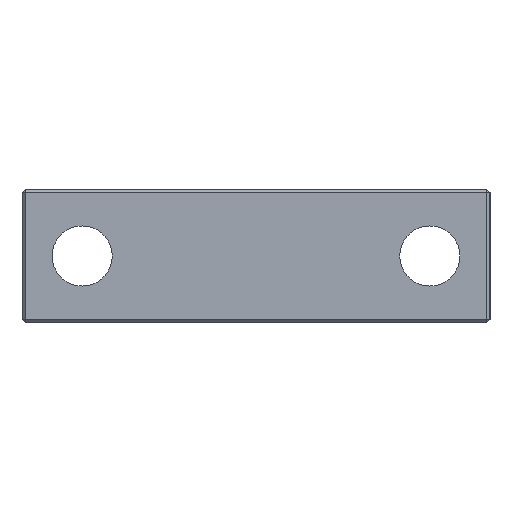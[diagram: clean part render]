
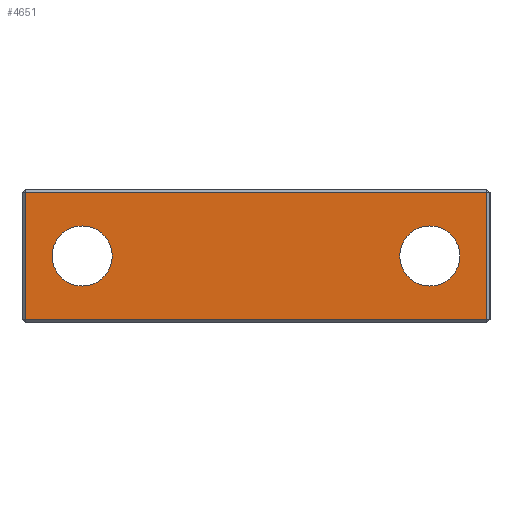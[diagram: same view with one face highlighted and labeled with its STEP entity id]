
A CAD part, front view. The second image highlights one B-rep face of the part: STEP entity #4651.
In plain terms, the highlighted planar face has unit normal (0, -1, 0).
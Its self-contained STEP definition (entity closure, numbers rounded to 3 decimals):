
#93 = AXIS2_PLACEMENT_3D ( 'NONE', #4822, #4818, #4798 ) ;
#404 = CARTESIAN_POINT ( 'NONE',  ( -26., 0., -10. ) ) ;
#708 = AXIS2_PLACEMENT_3D ( 'NONE', #404, #1279, #5474 ) ;
#755 = VERTEX_POINT ( 'NONE', #5605 ) ;
#792 = VERTEX_POINT ( 'NONE', #1068 ) ;
#796 = DIRECTION ( 'NONE',  ( 1., 0., 0. ) ) ;
#801 = CARTESIAN_POINT ( 'NONE',  ( 35., 0., -19.5 ) ) ;
#999 = VERTEX_POINT ( 'NONE', #2020 ) ;
#1051 = VERTEX_POINT ( 'NONE', #1129 ) ;
#1068 = CARTESIAN_POINT ( 'NONE',  ( 26., 0., -14.5 ) ) ;
#1080 = EDGE_CURVE ( 'NONE', #4628, #999, #5438, .T. ) ;
#1129 = CARTESIAN_POINT ( 'NONE',  ( 26., 0., -5.5 ) ) ;
#1279 = DIRECTION ( 'NONE',  ( 0., -1., 0. ) ) ;
#1425 = DIRECTION ( 'NONE',  ( 0., -1., 0. ) ) ;
#1484 = CIRCLE ( 'NONE', #2154, 4.5 ) ;
#1568 = DIRECTION ( 'NONE',  ( 0., 0., 1. ) ) ;
#1615 = ORIENTED_EDGE ( 'NONE', *, *, #1638, .T. ) ;
#1638 = EDGE_CURVE ( 'NONE', #755, #4171, #3780, .T. ) ;
#1654 = CARTESIAN_POINT ( 'NONE',  ( -26., 0., -14.5 ) ) ;
#1681 = ORIENTED_EDGE ( 'NONE', *, *, #1080, .T. ) ;
#1731 = DIRECTION ( 'NONE',  ( -1., 0., 0. ) ) ;
#1814 = CIRCLE ( 'NONE', #93, 4.5 ) ;
#1945 = CARTESIAN_POINT ( 'NONE',  ( -35., 0., -0.5 ) ) ;
#2020 = CARTESIAN_POINT ( 'NONE',  ( -34.5, 0., -19.5 ) ) ;
#2141 = CARTESIAN_POINT ( 'NONE',  ( 34.5, 0., -20. ) ) ;
#2154 = AXIS2_PLACEMENT_3D ( 'NONE', #2730, #2726, #2716 ) ;
#2176 = EDGE_LOOP ( 'NONE', ( #3998, #5680 ) ) ;
#2185 = ORIENTED_EDGE ( 'NONE', *, *, #3108, .T. ) ;
#2198 = EDGE_CURVE ( 'NONE', #792, #1051, #1814, .T. ) ;
#2214 = EDGE_LOOP ( 'NONE', ( #3448, #5448 ) ) ;
#2285 = VERTEX_POINT ( 'NONE', #4231 ) ;
#2378 = FACE_OUTER_BOUND ( 'NONE', #2493, .T. ) ;
#2379 = FACE_BOUND ( 'NONE', #2214, .T. ) ;
#2382 = FACE_BOUND ( 'NONE', #2176, .T. ) ;
#2493 = EDGE_LOOP ( 'NONE', ( #2185, #1615, #3305, #1681 ) ) ;
#2716 = DIRECTION ( 'NONE',  ( 0., 0., -1. ) ) ;
#2726 = DIRECTION ( 'NONE',  ( 0., -1., 0. ) ) ;
#2730 = CARTESIAN_POINT ( 'NONE',  ( -26., 0., -10. ) ) ;
#3013 = CIRCLE ( 'NONE', #4748, 4.5 ) ;
#3104 = CARTESIAN_POINT ( 'NONE',  ( 34.5, 0., -0.5 ) ) ;
#3108 = EDGE_CURVE ( 'NONE', #999, #755, #4870, .T. ) ;
#3272 = VECTOR ( 'NONE', #1731, 1000. ) ;
#3282 = LINE ( 'NONE', #1945, #3272 ) ;
#3305 = ORIENTED_EDGE ( 'NONE', *, *, #4155, .T. ) ;
#3378 = CARTESIAN_POINT ( 'NONE',  ( -34.5, 0., -0.5 ) ) ;
#3448 = ORIENTED_EDGE ( 'NONE', *, *, #4092, .F. ) ;
#3468 = DIRECTION ( 'NONE',  ( 0., 0., -1. ) ) ;
#3487 = CIRCLE ( 'NONE', #708, 4.5 ) ;
#3511 = CARTESIAN_POINT ( 'NONE',  ( -34.5, 0., -20. ) ) ;
#3712 = VECTOR ( 'NONE', #1568, 1000. ) ;
#3780 = LINE ( 'NONE', #2141, #3712 ) ;
#3998 = ORIENTED_EDGE ( 'NONE', *, *, #4336, .F. ) ;
#4012 = CARTESIAN_POINT ( 'NONE',  ( -35., 0., -20. ) ) ;
#4092 = EDGE_CURVE ( 'NONE', #2285, #4997, #3487, .T. ) ;
#4155 = EDGE_CURVE ( 'NONE', #4171, #4628, #3282, .T. ) ;
#4171 = VERTEX_POINT ( 'NONE', #3104 ) ;
#4231 = CARTESIAN_POINT ( 'NONE',  ( -26., 0., -5.5 ) ) ;
#4336 = EDGE_CURVE ( 'NONE', #1051, #792, #3013, .T. ) ;
#4628 = VERTEX_POINT ( 'NONE', #3378 ) ;
#4651 = ADVANCED_FACE ( 'NONE', ( #2378, #2379, #2382 ), #4801, .T. ) ;
#4748 = AXIS2_PLACEMENT_3D ( 'NONE', #5151, #5056, #4763 ) ;
#4754 = DIRECTION ( 'NONE',  ( 0., 0., -1. ) ) ;
#4763 = DIRECTION ( 'NONE',  ( 0., 0., -1. ) ) ;
#4798 = DIRECTION ( 'NONE',  ( 0., 0., -1. ) ) ;
#4801 = PLANE ( 'NONE',  #5504 ) ;
#4818 = DIRECTION ( 'NONE',  ( 0., -1., 0. ) ) ;
#4822 = CARTESIAN_POINT ( 'NONE',  ( 26., 0., -10. ) ) ;
#4870 = LINE ( 'NONE', #801, #5003 ) ;
#4997 = VERTEX_POINT ( 'NONE', #1654 ) ;
#5003 = VECTOR ( 'NONE', #796, 1000. ) ;
#5056 = DIRECTION ( 'NONE',  ( 0., -1., 0. ) ) ;
#5118 = EDGE_CURVE ( 'NONE', #4997, #2285, #1484, .T. ) ;
#5151 = CARTESIAN_POINT ( 'NONE',  ( 26., 0., -10. ) ) ;
#5438 = LINE ( 'NONE', #3511, #5508 ) ;
#5448 = ORIENTED_EDGE ( 'NONE', *, *, #5118, .F. ) ;
#5474 = DIRECTION ( 'NONE',  ( 0., 0., -1. ) ) ;
#5504 = AXIS2_PLACEMENT_3D ( 'NONE', #4012, #1425, #4754 ) ;
#5508 = VECTOR ( 'NONE', #3468, 1000. ) ;
#5605 = CARTESIAN_POINT ( 'NONE',  ( 34.5, 0., -19.5 ) ) ;
#5680 = ORIENTED_EDGE ( 'NONE', *, *, #2198, .F. ) ;
